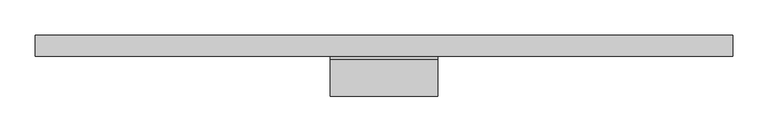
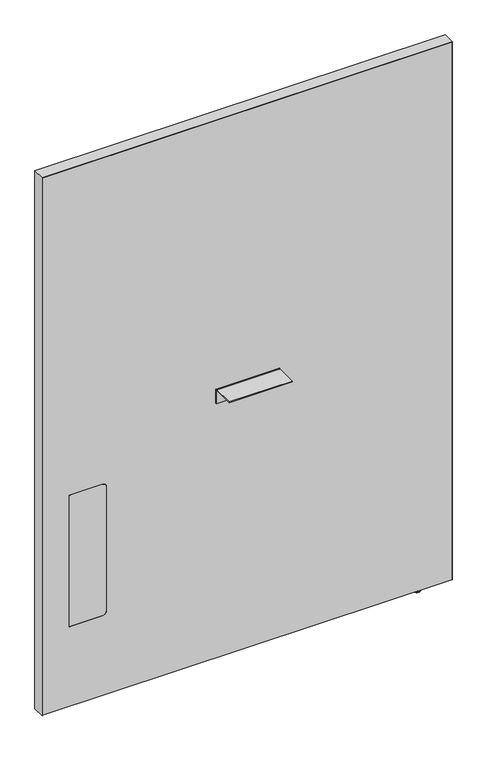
"""IFC4 building model written with IfcOpenShell, lengths in millimetres: furniture geometry, Steelcase - Answer Solution - Boundary Screen - Straight - Single Sided : 54H x 39W."""

from ifc_helpers import new_model, si_unit, point, frame, frame_2d, origin, place, context, project, spatial, polyline, circle_curve, ellipse_curve, trimmed, segment, composite_curve, outline, extrude, source, transform, mapped, element, save
from ifc_brep_helpers import plane_surface, cylinder_surface, revolved_surface, advanced_brep


def furniture_45912f9c(model_context):
    return source(origin(), model_context, "Body", "SolidModel", [
        extrude(outline(composite_curve([segment(polyline([(-86.8398151, 696.4680019), (-86.8398151, 698.5), (-34.9450855, 698.5)]), True, "CONTINUOUS"), segment(trimmed(circle_curve(frame_2d((-34.9450855, 693.2447477)), 5.2552523), [point((-34.9450855, 698.5))], [point((-29.6898332, 693.2447477))], False, "CARTESIAN"), True, "CONTINUOUS"), segment(polyline([(-29.6898332, 693.2447477), (-29.6898332, 660.4), (-31.7218162, 660.4), (-31.7218162, 693.0058743)]), True, "CONTINUOUS"), segment(trimmed(circle_curve(frame_2d((-35.1839438, 693.0058743)), 3.4621276), [point((-31.7218162, 693.0058743))], [point((-35.1839438, 696.4680019))], True, "CARTESIAN"), True, "CONTINUOUS"), segment(polyline([(-35.1839438, 696.4680019), (-86.8398151, 696.4680019)]), True, "CONTINUOUS")], self_intersect=False)), frame((-227.3808593, 0.0, 0.0), z_axis=(1.0, 0.0, 0.0), x_axis=(0.0, 1.0, 0.0)), (0.0, 0.0, 1.0), 152.4000969),
        advanced_brep(
        [(266.9286488, -23.7588726, 9.9059849), (266.9286488, -5.9309607, 9.9059849), (266.9286488, -14.8449166, 9.9059849), (266.9286488, -23.7588726, 2.9673238), (266.9286488, -5.9309607, 2.9673238), (266.9286488, -22.7915354, 2.9673238), (266.9286488, -6.8982978, 2.9673238), (266.9286488, -22.7915354, 1.6569081), (266.9286488, -6.8982978, 1.6569081), (266.9286488, -21.1346274, 0.0), (266.9286488, -8.5552059, 0.0), (266.9286488, -14.8449166, 0.0)],
        [
            (0, 1, circle_curve(frame((266.9286488, -14.8449166, 9.9059849), z_axis=(0.0, 0.0, 1.0), x_axis=(0.0, 1.0, 0.0)), 8.913956)),
            (1, 2),
            (2, 0),
            (1, 0, circle_curve(frame((266.9286488, -14.8449166, 9.9059849), z_axis=(0.0, 0.0, 1.0), x_axis=(0.0, 1.0, 0.0)), 8.913956)),
            (3, 4, circle_curve(frame((266.9286488, -14.8449166, 2.9673238), z_axis=(0.0, 0.0, 1.0), x_axis=(0.0, 1.0, 0.0)), 8.913956)),
            (4, 1),
            (0, 3),
            (4, 3, circle_curve(frame((266.9286488, -14.8449166, 2.9673238), z_axis=(0.0, 0.0, 1.0), x_axis=(0.0, 1.0, 0.0)), 8.913956)),
            (5, 6, circle_curve(frame((266.9286488, -14.8449166, 2.9673238), z_axis=(0.0, 0.0, 1.0), x_axis=(0.0, 1.0, 0.0)), 7.9466188)),
            (6, 4),
            (3, 5),
            (6, 5, circle_curve(frame((266.9286488, -14.8449166, 2.9673238), z_axis=(0.0, 0.0, 1.0), x_axis=(0.0, 1.0, 0.0)), 7.9466188)),
            (7, 8, circle_curve(frame((266.9286488, -14.8449166, 1.6569081), z_axis=(0.0, 0.0, 1.0), x_axis=(0.0, 1.0, 0.0)), 7.9466188)),
            (8, 6),
            (5, 7),
            (8, 7, circle_curve(frame((266.9286488, -14.8449166, 1.6569081), z_axis=(0.0, 0.0, 1.0), x_axis=(0.0, 1.0, 0.0)), 7.9466188)),
            (9, 10, circle_curve(frame((266.9286488, -14.8449166, 0.0), z_axis=(0.0, 0.0, 1.0), x_axis=(0.0, 1.0, 0.0)), 6.2897107)),
            (10, 8, circle_curve(frame((266.9286488, -8.5552059, 1.6569081), z_axis=(1.0, 0.0, 0.0), x_axis=(0.0, 1.0, 0.0)), 1.6569081)),
            (7, 9, circle_curve(frame((266.9286488, -21.1346274, 1.6569081), z_axis=(1.0, 0.0, 0.0), x_axis=(0.0, -1.0, 0.0)), 1.6569081)),
            (10, 9, circle_curve(frame((266.9286488, -14.8449166, 0.0), z_axis=(0.0, 0.0, 1.0), x_axis=(0.0, 1.0, 0.0)), 6.2897107)),
            (11, 10),
            (9, 11),
        ],
        [
            plane_surface(frame((266.9286488, -14.8449166, 9.9059849), z_axis=(0.0, 0.0, 1.0), x_axis=(0.0, 1.0, 0.0))),
            cylinder_surface(frame((266.9286488, -14.8449166, 9.9059849), z_axis=(0.0, 0.0, -1.0), x_axis=(0.0, 1.0, 0.0)), 8.913956),
            plane_surface(frame((266.9286488, -14.8449166, 2.9673238), z_axis=(0.0, 0.0, -1.0), x_axis=(0.0, 1.0, 0.0))),
            cylinder_surface(frame((266.9286488, -14.8449166, 9.9059849), z_axis=(0.0, 0.0, -1.0), x_axis=(0.0, 1.0, 0.0)), 7.9466188),
            revolved_surface(trimmed(ellipse_curve(frame((266.9286488, -8.5552059, 1.6569081), z_axis=(-1.0, 0.0, 0.0), x_axis=(0.0, 1.0, 0.0)), 1.6569081, 1.6569081), [point((266.9286488, -6.8982978, 1.6569081))], [point((266.9286488, -8.5552059, 0.0))], True, "CARTESIAN"), (266.9286488, -14.8449166, 9.9059849), (0.0, 0.0, -1.0)),
            plane_surface(frame((266.9286488, -14.8449166, 0.0), z_axis=(0.0, 0.0, -1.0), x_axis=(0.0, 1.0, 0.0))),
        ],
        [
            (0, [[1, 2, 3]]),
            (0, [[4, -3, -2]]),
            (1, [[5, 6, -1, 7]]),
            (1, [[8, -7, -4, -6]]),
            (2, [[9, 10, -5, 11]]),
            (2, [[12, -11, -8, -10]]),
            (3, [[13, 14, -9, 15]]),
            (3, [[16, -15, -12, -14]]),
            (4, [[17, 18, -13, 19]]),
            (4, [[20, -19, -16, -18]]),
            (5, [[21, -17, 22]]),
            (5, [[-22, -20, -21]]),
        ],
    ),
        advanced_brep(
        [(343.0780168, 0.0, 1381.542118), (343.0780168, 0.0, 9.9059849), (-645.4902221, 0.0, 9.9059849), (-645.4902221, 0.0, 1381.542118), (343.0780168, -29.6898332, 1381.542118), (-645.4902221, -29.6898332, 1381.542118), (-645.4902221, -29.6898332, 9.9059849), (343.0780168, -29.6898332, 9.9059849), (-501.1463873, -29.6898332, 549.6162029), (-490.9863873, -29.6898332, 539.4562029), (-490.9863873, -29.6898332, 223.9362137), (-501.1463873, -29.6898332, 213.7762137), (-580.800285, -29.6898332, 213.7762137), (-580.800285, -29.6898332, 549.6162029), (-580.800285, -29.0550397, 549.6162029), (-501.1463873, -29.0550397, 549.6162029), (-580.800285, -29.0550397, 213.7762137), (-501.1463873, -29.0550397, 213.7762137), (-490.9863873, -29.0550397, 223.9362137), (-490.9863873, -29.0550397, 539.4562029)],
        [
            (0, 1),
            (1, 2),
            (2, 3),
            (3, 0),
            (4, 5),
            (5, 6),
            (6, 7),
            (7, 4),
            (8, 9, circle_curve(frame((-501.1463873, -29.6898332, 539.4562029), z_axis=(0.0, 1.0, 0.0), x_axis=(0.0, 0.0, 1.0)), 10.16)),
            (9, 10),
            (10, 11, circle_curve(frame((-501.1463873, -29.6898332, 223.9362137), z_axis=(0.0, 1.0, 0.0), x_axis=(0.0, 0.0, 1.0)), 10.16)),
            (11, 12),
            (12, 13),
            (13, 8),
            (0, 4),
            (7, 1),
            (6, 2),
            (5, 3),
            (13, 14),
            (14, 15),
            (15, 8),
            (12, 16),
            (16, 14),
            (11, 17),
            (17, 16),
            (10, 18),
            (18, 17, circle_curve(frame((-501.1463873, -29.0550397, 223.9362137), z_axis=(0.0, 1.0, 0.0), x_axis=(0.0, 0.0, 1.0)), 10.16)),
            (9, 19),
            (19, 18),
            (15, 19, circle_curve(frame((-501.1463873, -29.0550397, 539.4562029), z_axis=(0.0, 1.0, 0.0), x_axis=(0.0, 0.0, 1.0)), 10.16)),
        ],
        [
            plane_surface(frame((343.0780168, 0.0, 1381.542118), z_axis=(0.0, 1.0, 0.0), x_axis=(0.0, 0.0, -1.0))),
            plane_surface(frame((343.0780168, -29.6898332, 1381.542118), z_axis=(0.0, -1.0, 0.0), x_axis=(0.0, 0.0, 1.0))),
            plane_surface(frame((343.0780168, 0.0, 1381.542118), z_axis=(1.0, 0.0, 0.0), x_axis=(0.0, -1.0, 0.0))),
            plane_surface(frame((343.0780168, 0.0, 9.9059849), z_axis=(0.0, 0.0, -1.0), x_axis=(0.0, -1.0, 0.0))),
            plane_surface(frame((-645.4902221, 0.0, 9.9059849), z_axis=(-1.0, 0.0, 0.0), x_axis=(0.0, -1.0, 0.0))),
            plane_surface(frame((-645.4902221, 0.0, 1381.542118), z_axis=(0.0, 0.0, 1.0), x_axis=(0.0, -1.0, 0.0))),
            plane_surface(frame((-501.1463873, 0.0, 549.6162029), z_axis=(0.0, 0.0, -1.0), x_axis=(0.0, -1.0, 0.0))),
            plane_surface(frame((-580.800285, 0.0, 549.6162029), z_axis=(1.0, 0.0, 0.0), x_axis=(0.0, -1.0, 0.0))),
            plane_surface(frame((-580.800285, 0.0, 213.7762137), z_axis=(0.0, 0.0, 1.0), x_axis=(0.0, -1.0, 0.0))),
            revolved_surface(polyline([(-501.1463873, -29.6898332, 234.0962137), (-501.1463873, -29.0550397, 234.0962137)]), (-501.1463873, -29.6898332, 223.9362137), (0.0, -1.0, 0.0)),
            plane_surface(frame((-490.9863873, 0.0, 223.9362137), z_axis=(-1.0, 0.0, 0.0), x_axis=(0.0, -1.0, 0.0))),
            revolved_surface(polyline([(-501.1463873, -29.6898332, 549.6162029), (-501.1463873, -29.0550397, 549.6162029)]), (-501.1463873, -29.6898332, 539.4562029), (0.0, -1.0, 0.0)),
            plane_surface(frame((-490.9863873, -29.0550397, 629.172953), z_axis=(0.0, -1.0, 0.0), x_axis=(0.0, 0.0, 1.0))),
        ],
        [
            (0, [[1, 2, 3, 4]]),
            (1, [[5, 6, 7, 8], [9, 10, 11, 12, 13, 14]]),
            (2, [[-1, 15, -8, 16]]),
            (3, [[-2, -16, -7, 17]]),
            (4, [[-3, -17, -6, 18]]),
            (5, [[-4, -18, -5, -15]]),
            (6, [[-14, 19, 20, 21]]),
            (7, [[-13, 22, 23, -19]]),
            (8, [[-12, 24, 25, -22]]),
            (9, [[-11, 26, 27, -24]]),
            (10, [[-10, 28, 29, -26]]),
            (11, [[-9, -21, 30, -28]]),
            (12, [[-20, -23, -25, -27, -29, -30]]),
        ],
    ),
        extrude(outline(composite_curve([segment(polyline([(549.6162029, -501.1463873), (549.6162029, -580.800285), (213.7762137, -580.800285), (213.7762137, -501.1463873)]), True, "CONTINUOUS"), segment(trimmed(circle_curve(frame_2d((223.9362137, -501.1463873)), 10.16), [point((213.7762137, -501.1463873))], [point((223.9362137, -490.9863873))], False, "CARTESIAN"), True, "CONTINUOUS"), segment(polyline([(223.9362137, -490.9863873), (539.4562029, -490.9863873)]), True, "CONTINUOUS"), segment(trimmed(circle_curve(frame_2d((539.4562029, -501.1463873)), 10.16), [point((539.4562029, -490.9863873))], [point((549.6162029, -501.1463873))], False, "CARTESIAN"), True, "CONTINUOUS")], self_intersect=False)), frame((0.0, -29.6898332, 0.0), z_axis=(0.0, 1.0, 0.0), x_axis=(0.0, 0.0, 1.0)), (0.0, 0.0, 1.0), 0.6347935),
        extrude(outline(polyline([(1382.522, 344.1191891), (1382.522, -646.4808109), (9.9059849, -646.4808109), (9.9059849, -645.4902221), (1381.542118, -645.4902221), (1381.542118, 343.0780168), (9.9059849, 343.0780168), (9.9059849, 344.1191891), (1382.522, 344.1191891)])), frame((0.0, -29.6898332, 0.0), z_axis=(0.0, 1.0, 0.0), x_axis=(0.0, 0.0, 1.0)), (0.0, 0.0, 1.0), 29.6898332),
    ])


if __name__ == "__main__":
    model = new_model("IFC4")
    model_context = context("Model", 3, world=origin())
    ifc_project = project(units=[si_unit("LENGTHUNIT", "METRE", prefix="MILLI")], contexts=[model_context])
    site = spatial("IfcSite", under=ifc_project)
    building = spatial("IfcBuilding", under=site)
    placement = place(None, origin())
    furniture_shape = furniture_45912f9c(model_context)
    element("IfcFurniture", 1, ObjectType="Steelcase - Answer Solution - Boundary Screen - Straight - Single Sided : 54H x 39W", at=placement, inside=building, context=model_context, shape_type="MappedRepresentation", body=[
        mapped(furniture_shape, transform((0.0, 0.0, 0.0), x_axis=(1.0, 0.0, 0.0), y_axis=(0.0, 1.0, 0.0), z_axis=(0.0, 0.0, 1.0))),
    ])
    save(model, "model.ifc")
